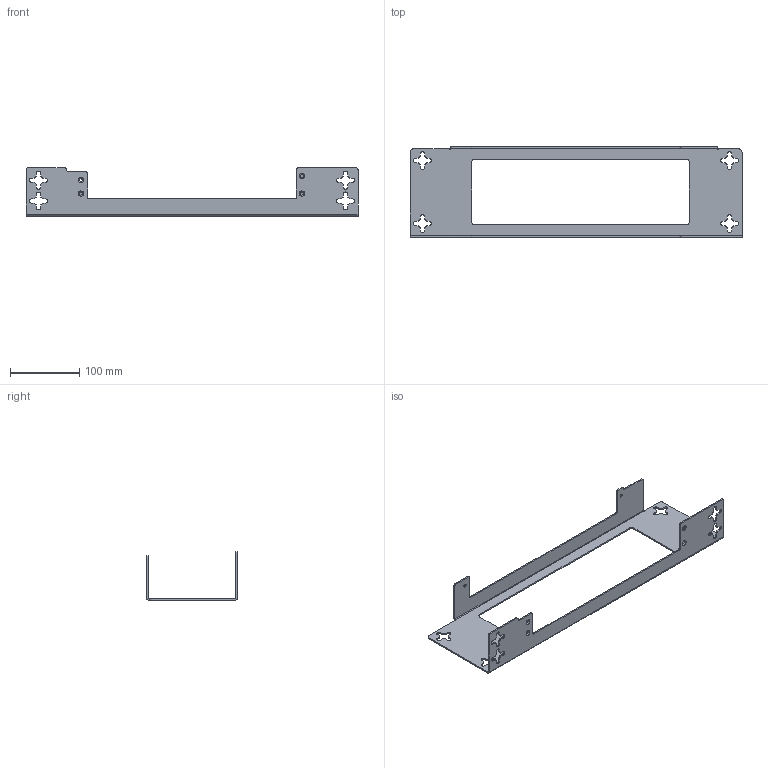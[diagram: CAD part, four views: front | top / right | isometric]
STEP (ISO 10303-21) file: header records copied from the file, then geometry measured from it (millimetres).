
FILE_DESCRIPTION(/* description */ ('','CAx-IF Rec.Pracs.---Representation and Presentation of Product Manufacturing Information (PMI)---4.0---2014-10-13'),/* implementation_level */ '2;1');
FILE_NAME(/* name */ 'E:\CAMTEC_2020_Pack and Go\PSU mit Wandhalterung\2051079001CA.stp',/* time_stamp */ '2020-09-21T10:19:08+02:00',/* author */ ('rryba'),/* organization */ (''),/* preprocessor_version */ 'ST-DEVELOPER v18.1',/* originating_system */ 'Autodesk Inventor 2021',/* authorisation */ '');
FILE_SCHEMA (('AP242_MANAGED_MODEL_BASED_3D_ENGINEERING_MIM_LF { 1 0 10303 442 1 1 4 }'));
Length unit declared in the file: millimetre
Products named in the file (1): 2051079001CA
Bounding box: 480 x 131 x 70 mm (x, y, z)
Volume: 120525.6 mm3; surface area: 127134.7 mm2
Topology: 1 solids, 1 shells, 213 faces, 797 edges, 770 vertices
Faces by surface type: plane 105, cylinder 102, cone 6
Full cylindrical faces by diameter (mm): 4.5 x6, 7.8 x6
Entity records: 8242 total; most frequent: CARTESIAN_POINT 1662, DIRECTION 1381, ORIENTED_EDGE 1210, EDGE_CURVE 605, AXIS2_PLACEMENT_3D 490, LINE 401, VECTOR 401, VERTEX_POINT 394
